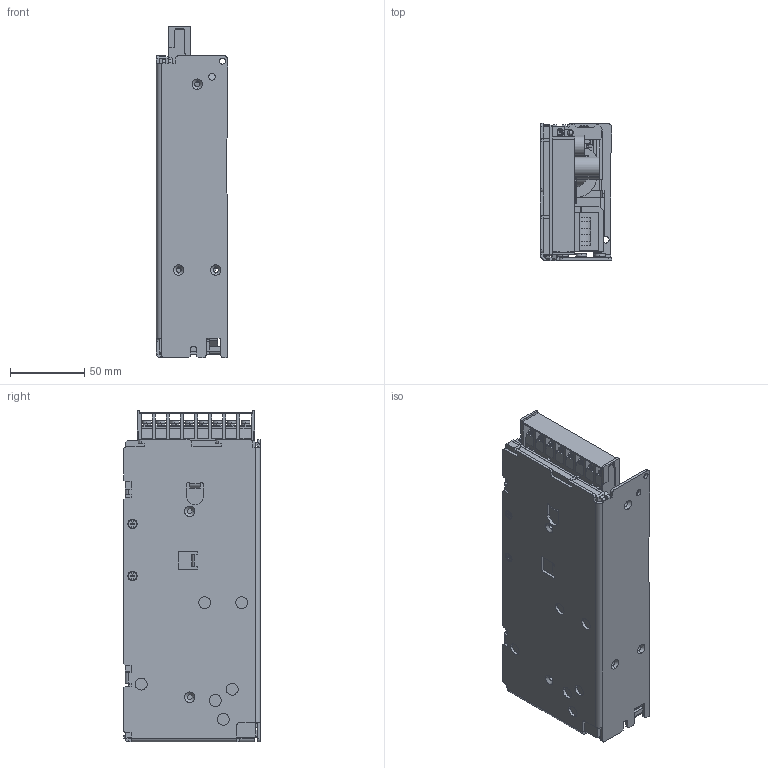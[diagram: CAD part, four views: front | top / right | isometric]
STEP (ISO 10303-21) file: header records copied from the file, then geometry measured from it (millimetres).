
FILE_DESCRIPTION (( 'STEP AP214' ), '1' );
FILE_NAME ('JWT100_OUTLINE.STEP', '2007-04-05T06:40:51', ( ' ' ), ( ' ' ), 'SwSTEP 2.0', 'SolidWorks 2007', '' );
FILE_SCHEMA (( 'AUTOMOTIVE_DESIGN' ));
Length unit declared in the file: millimetre
Products named in the file (1): JWT100_OUTLINE
Bounding box: 48 x 92 x 223 mm (x, y, z)
Volume: 350858.2 mm3; surface area: 160351.8 mm2
Topology: 2 solids, 9 shells, 3065 faces, 8251 edges, 5258 vertices
Faces by surface type: plane 1733, cylinder 1085, bspline 151, cone 96
Entity records: 134471 total; most frequent: CARTESIAN_POINT 22856, ORIENTED_EDGE 16456, DIRECTION 16084, EDGE_CURVE 8228, LINE 5506, VECTOR 5506, AXIS2_PLACEMENT_3D 5289, VERTEX_POINT 5258
